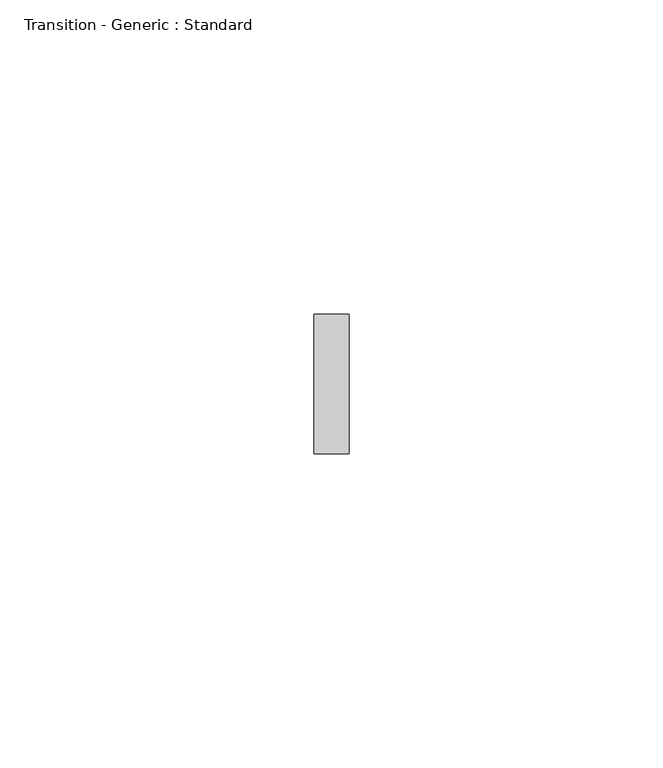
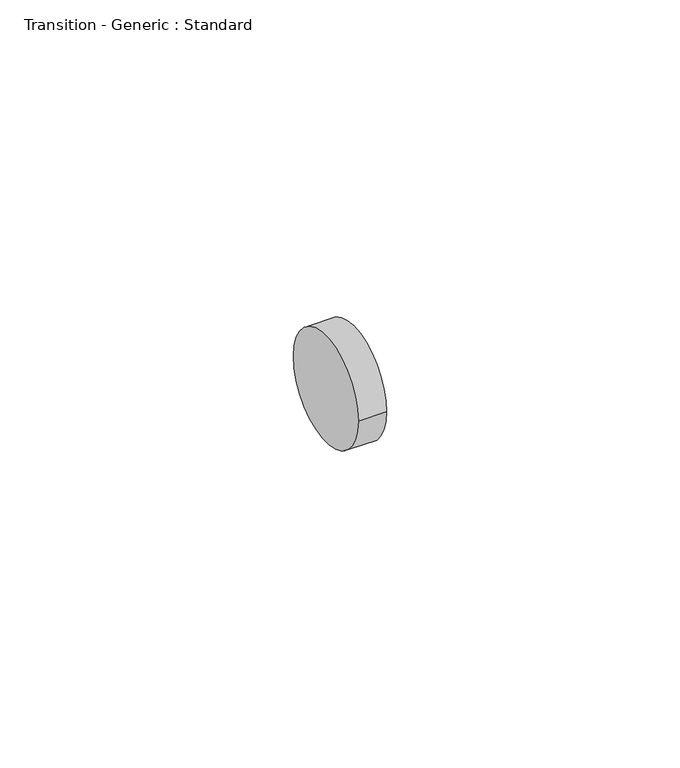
"""IFC4 building model written with IfcOpenShell, lengths in millimetres: pipe fitting geometry, Transition - Generic : Standard."""

from ifc_helpers import new_model, si_unit, frame, origin, place, context, project, spatial, polyline, circle_curve, source, transform, mapped, element, save
from ifc_brep_helpers import plane_surface, revolved_surface, advanced_brep


def transition_generic_standard_b8cb4354(model_context):
    return source(origin(), model_context, "Body", "AdvancedBrep", [
        advanced_brep(
        [(5.55625, -11.1125, 0.0), (5.55625, 11.1125, 0.0), (0.0, -11.0875, 0.0), (0.0, 11.0875, 0.0)],
        [
            (0, 1, circle_curve(frame((5.55625, 0.0, 0.0), z_axis=(1.0, 0.0, 0.0), x_axis=(0.0, -1.0, 0.0)), 11.1125)),
            (1, 0, circle_curve(frame((5.55625, 0.0, 0.0), z_axis=(1.0, 0.0, 0.0), x_axis=(0.0, 1.0, 0.0)), 11.1125)),
            (2, 3, circle_curve(frame((0.0, 0.0, 0.0), z_axis=(-1.0, 0.0, 0.0), x_axis=(0.0, 1.0, 0.0)), 11.0875)),
            (3, 2, circle_curve(frame((0.0, 0.0, 0.0), z_axis=(-1.0, 0.0, 0.0), x_axis=(0.0, -1.0, 0.0)), 11.0875)),
            (3, 1),
            (0, 2),
        ],
        [
            plane_surface(frame((5.55625, 0.0, 0.0), z_axis=(1.0, 0.0, 0.0), x_axis=(0.0, 0.0, -1.0))),
            plane_surface(frame((0.0, 0.0, 0.0), z_axis=(-1.0, 0.0, 0.0), x_axis=(0.0, 0.0, -1.0))),
            revolved_surface(polyline([(0.0, 11.0875, 0.0), (5.556250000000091, 11.1125, 0.0)]), (-2464.196875, 0.0, 0.0), (1.0, 0.0, 0.0)),
            revolved_surface(polyline([(0.0, -11.0875, 0.0), (5.556250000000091, -11.1125, 0.0)]), (-2464.196875, 0.0, 0.0), (1.0, 0.0, 0.0)),
        ],
        [
            (0, [[1, 2]]),
            (1, [[3, 4]]),
            (2, [[-4, 5, -1, 6]]),
            (3, [[-3, -6, -2, -5]]),
        ],
    ),
    ])


if __name__ == "__main__":
    model = new_model("IFC4")
    model_context = context("Model", 3, world=origin())
    ifc_project = project(units=[si_unit("LENGTHUNIT", "METRE", prefix="MILLI")], contexts=[model_context])
    site = spatial("IfcSite", under=ifc_project)
    building = spatial("IfcBuilding", under=site)
    placement = place(None, origin())
    transition_generic_standard_shape = transition_generic_standard_b8cb4354(model_context)
    element("IfcPipeFitting", 1, ObjectType="Transition - Generic : Standard", at=placement, inside=building, context=model_context, shape_type="MappedRepresentation", body=[
        mapped(transition_generic_standard_shape, transform((0.0, 0.0, 0.0), x_axis=(1.0, 0.0, 0.0), y_axis=(0.0, 1.0, 0.0), z_axis=(0.0, 0.0, 1.0))),
    ])
    save(model, "model.ifc")
